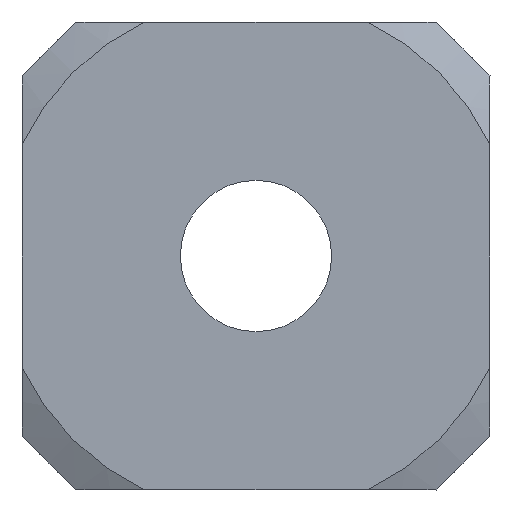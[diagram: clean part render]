
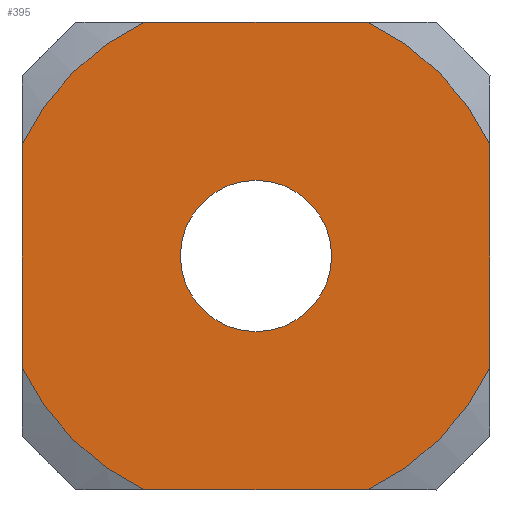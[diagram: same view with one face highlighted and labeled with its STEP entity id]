
A CAD part, front view. The second image highlights one B-rep face of the part: STEP entity #395.
In plain terms, the highlighted planar face has unit normal (0, -1, 0).
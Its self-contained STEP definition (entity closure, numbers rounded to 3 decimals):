
#5 = DIRECTION ( 'NONE',  ( 0., -1., 0. ) ) ;
#11 = DIRECTION ( 'NONE',  ( 0., -1., 0. ) ) ;
#34 = DIRECTION ( 'NONE',  ( 1., 0., 0. ) ) ;
#35 = CARTESIAN_POINT ( 'NONE',  ( -6.5, 0., 0. ) ) ;
#36 = ORIENTED_EDGE ( 'NONE', *, *, #570, .T. ) ;
#41 = VECTOR ( 'NONE', #294, 1000. ) ;
#54 = DIRECTION ( 'NONE',  ( 0., -1., 0. ) ) ;
#55 = DIRECTION ( 'NONE',  ( 0., 1., 0. ) ) ;
#57 = ORIENTED_EDGE ( 'NONE', *, *, #492, .T. ) ;
#68 = CARTESIAN_POINT ( 'NONE',  ( 0., 0., 0. ) ) ;
#93 = VECTOR ( 'NONE', #435, 1000. ) ;
#96 = CARTESIAN_POINT ( 'NONE',  ( 6.5, 0., -3.097 ) ) ;
#99 = ORIENTED_EDGE ( 'NONE', *, *, #515, .T. ) ;
#113 = DIRECTION ( 'NONE',  ( 0., 0., 1. ) ) ;
#120 = VERTEX_POINT ( 'NONE', #470 ) ;
#125 = DIRECTION ( 'NONE',  ( 0., 0., 1. ) ) ;
#129 = EDGE_CURVE ( 'NONE', #679, #120, #464, .T. ) ;
#130 = CARTESIAN_POINT ( 'NONE',  ( 0., 0., 0. ) ) ;
#131 = DIRECTION ( 'NONE',  ( 0., 0., 1. ) ) ;
#148 = EDGE_LOOP ( 'NONE', ( #554, #645 ) ) ;
#152 = CIRCLE ( 'NONE', #741, 2.1 ) ;
#153 = VECTOR ( 'NONE', #34, 1000. ) ;
#159 = CARTESIAN_POINT ( 'NONE',  ( -3.097, 0., -6.5 ) ) ;
#172 = LINE ( 'NONE', #377, #153 ) ;
#181 = EDGE_CURVE ( 'NONE', #321, #433, #303, .T. ) ;
#182 = LINE ( 'NONE', #589, #41 ) ;
#198 = AXIS2_PLACEMENT_3D ( 'NONE', #68, #5, #343 ) ;
#202 = ORIENTED_EDGE ( 'NONE', *, *, #181, .T. ) ;
#212 = EDGE_CURVE ( 'NONE', #538, #459, #172, .T. ) ;
#219 = VERTEX_POINT ( 'NONE', #96 ) ;
#221 = CARTESIAN_POINT ( 'NONE',  ( 0., 0., 0. ) ) ;
#224 = EDGE_CURVE ( 'NONE', #120, #532, #431, .T. ) ;
#226 = CARTESIAN_POINT ( 'NONE',  ( 3.097, 0., 6.5 ) ) ;
#262 = DIRECTION ( 'NONE',  ( 0., 0., -1. ) ) ;
#286 = VERTEX_POINT ( 'NONE', #693 ) ;
#287 = CIRCLE ( 'NONE', #355, 7.2 ) ;
#294 = DIRECTION ( 'NONE',  ( 0., 0., 1. ) ) ;
#303 = CIRCLE ( 'NONE', #648, 7.2 ) ;
#321 = VERTEX_POINT ( 'NONE', #574 ) ;
#337 = CARTESIAN_POINT ( 'NONE',  ( 0., 0., 2.1 ) ) ;
#339 = DIRECTION ( 'NONE',  ( 0., -1., 0. ) ) ;
#343 = DIRECTION ( 'NONE',  ( 0., 0., -1. ) ) ;
#355 = AXIS2_PLACEMENT_3D ( 'NONE', #716, #54, #113 ) ;
#373 = ORIENTED_EDGE ( 'NONE', *, *, #212, .T. ) ;
#374 = ORIENTED_EDGE ( 'NONE', *, *, #224, .T. ) ;
#377 = CARTESIAN_POINT ( 'NONE',  ( 0., 0., -6.5 ) ) ;
#395 = ADVANCED_FACE ( 'NONE', ( #622, #571 ), #749, .T. ) ;
#405 = EDGE_CURVE ( 'NONE', #219, #321, #182, .T. ) ;
#411 = AXIS2_PLACEMENT_3D ( 'NONE', #519, #55, #449 ) ;
#413 = AXIS2_PLACEMENT_3D ( 'NONE', #130, #339, #125 ) ;
#431 = LINE ( 'NONE', #35, #743 ) ;
#433 = VERTEX_POINT ( 'NONE', #226 ) ;
#435 = DIRECTION ( 'NONE',  ( -1., 0., 0. ) ) ;
#439 = LINE ( 'NONE', #653, #93 ) ;
#449 = DIRECTION ( 'NONE',  ( 0., 0., 1. ) ) ;
#451 = CIRCLE ( 'NONE', #411, 2.1 ) ;
#459 = VERTEX_POINT ( 'NONE', #697 ) ;
#464 = CIRCLE ( 'NONE', #685, 7.2 ) ;
#470 = CARTESIAN_POINT ( 'NONE',  ( -6.5, 0., 3.097 ) ) ;
#483 = CARTESIAN_POINT ( 'NONE',  ( 0., 0., 0. ) ) ;
#492 = EDGE_CURVE ( 'NONE', #459, #219, #752, .T. ) ;
#507 = EDGE_LOOP ( 'NONE', ( #374, #99, #373, #57, #546, #202, #36, #619 ) ) ;
#515 = EDGE_CURVE ( 'NONE', #532, #538, #287, .T. ) ;
#519 = CARTESIAN_POINT ( 'NONE',  ( 0., 0., 0. ) ) ;
#524 = CARTESIAN_POINT ( 'NONE',  ( 0., 0., 0. ) ) ;
#532 = VERTEX_POINT ( 'NONE', #556 ) ;
#538 = VERTEX_POINT ( 'NONE', #159 ) ;
#540 = DIRECTION ( 'NONE',  ( 0., -1., 0. ) ) ;
#546 = ORIENTED_EDGE ( 'NONE', *, *, #405, .T. ) ;
#554 = ORIENTED_EDGE ( 'NONE', *, *, #733, .T. ) ;
#556 = CARTESIAN_POINT ( 'NONE',  ( -6.5, 0., -3.097 ) ) ;
#570 = EDGE_CURVE ( 'NONE', #433, #679, #439, .T. ) ;
#571 = FACE_BOUND ( 'NONE', #148, .T. ) ;
#574 = CARTESIAN_POINT ( 'NONE',  ( 6.5, 0., 3.097 ) ) ;
#589 = CARTESIAN_POINT ( 'NONE',  ( 6.5, 0., 0. ) ) ;
#619 = ORIENTED_EDGE ( 'NONE', *, *, #129, .T. ) ;
#622 = FACE_OUTER_BOUND ( 'NONE', #507, .T. ) ;
#624 = DIRECTION ( 'NONE',  ( 0., 1., 0. ) ) ;
#629 = VERTEX_POINT ( 'NONE', #337 ) ;
#634 = CARTESIAN_POINT ( 'NONE',  ( -3.097, 0., 6.5 ) ) ;
#638 = DIRECTION ( 'NONE',  ( -1., 0., 0. ) ) ;
#645 = ORIENTED_EDGE ( 'NONE', *, *, #705, .T. ) ;
#648 = AXIS2_PLACEMENT_3D ( 'NONE', #483, #11, #131 ) ;
#653 = CARTESIAN_POINT ( 'NONE',  ( 0., 0., 6.5 ) ) ;
#679 = VERTEX_POINT ( 'NONE', #634 ) ;
#685 = AXIS2_PLACEMENT_3D ( 'NONE', #524, #540, #638 ) ;
#690 = DIRECTION ( 'NONE',  ( 0., 0., 1. ) ) ;
#693 = CARTESIAN_POINT ( 'NONE',  ( 0., 0., -2.1 ) ) ;
#697 = CARTESIAN_POINT ( 'NONE',  ( 3.097, 0., -6.5 ) ) ;
#705 = EDGE_CURVE ( 'NONE', #286, #629, #451, .T. ) ;
#716 = CARTESIAN_POINT ( 'NONE',  ( 0., 0., 0. ) ) ;
#733 = EDGE_CURVE ( 'NONE', #629, #286, #152, .T. ) ;
#741 = AXIS2_PLACEMENT_3D ( 'NONE', #221, #624, #690 ) ;
#743 = VECTOR ( 'NONE', #262, 1000. ) ;
#749 = PLANE ( 'NONE',  #198 ) ;
#752 = CIRCLE ( 'NONE', #413, 7.2 ) ;
